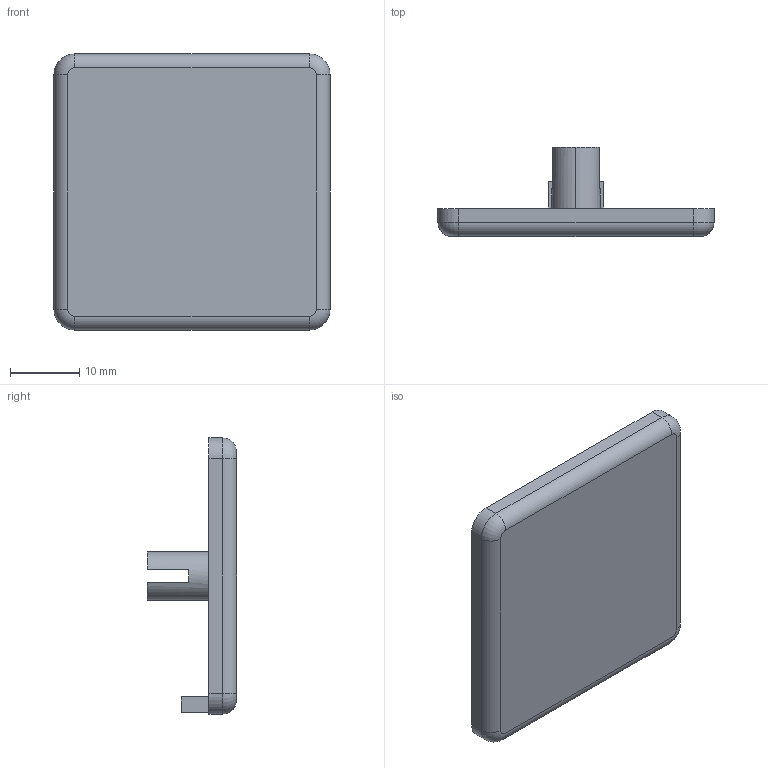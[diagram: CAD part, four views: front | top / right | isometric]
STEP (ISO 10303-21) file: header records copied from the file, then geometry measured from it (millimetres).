
FILE_DESCRIPTION (( 'STEP AP203' ), '1' );
FILE_NAME ('EC40X40.STEP', '2018-03-15T12:38:15', ( '' ), ( '' ), 'SwSTEP 2.0', 'SolidWorks 2013', '' );
FILE_SCHEMA (( 'CONFIG_CONTROL_DESIGN' ));
Length unit declared in the file: millimetre
Products named in the file (1): EC40X40
Bounding box: 40 x 12.9 x 40 mm (x, y, z)
Volume: 5202.8 mm3; surface area: 4233.7 mm2
Topology: 1 solids, 1 shells, 42 faces, 104 edges, 66 vertices
Faces by surface type: plane 24, cylinder 12, torus 4, cone 2
Entity records: 1323 total; most frequent: DIRECTION 228, CARTESIAN_POINT 213, ORIENTED_EDGE 208, EDGE_CURVE 104, AXIS2_PLACEMENT_3D 81, VECTOR 66, VERTEX_POINT 66, LINE 66
